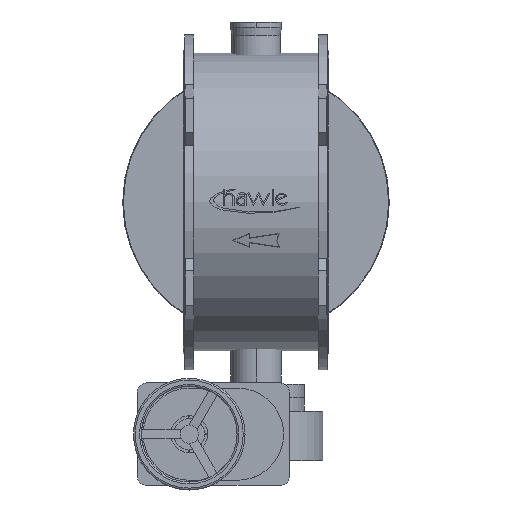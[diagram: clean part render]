
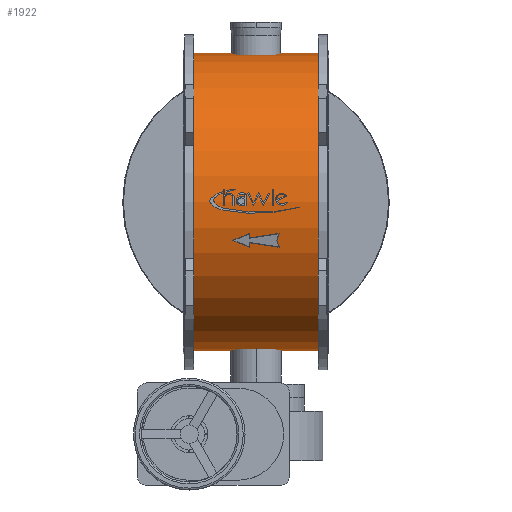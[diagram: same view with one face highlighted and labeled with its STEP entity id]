
A CAD part, top view. The second image highlights one B-rep face of the part: STEP entity #1922.
In plain terms, the highlighted cylindrical face has radius 646 mm (diameter 1292 mm), a partial arc.
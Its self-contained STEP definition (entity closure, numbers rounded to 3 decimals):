
#1922=ADVANCED_FACE('',(#3701),#3702,.T.);
#3701=FACE_OUTER_BOUND('',#5714,.T.);
#3702=CYLINDRICAL_SURFACE('',#5715,646.0);
#5714=EDGE_LOOP('',(#9601,#9602,#9603,#9604));
#5715=AXIS2_PLACEMENT_3D('',#9605,#9606,#9607);
#9601=ORIENTED_EDGE('',*,*,#12186,.T.);
#9602=ORIENTED_EDGE('',*,*,#11826,.T.);
#9603=ORIENTED_EDGE('',*,*,#12187,.T.);
#9604=ORIENTED_EDGE('',*,*,#11531,.T.);
#9605=CARTESIAN_POINT('',(-585.0,0.,0.0));
#9606=DIRECTION('',(1.0,0.,0.0));
#9607=DIRECTION('',(0.,-1.0,0.0));
#11531=EDGE_CURVE('',#13890,#13889,#13892,.T.);
#11826=EDGE_CURVE('',#14308,#14309,#14310,.T.);
#12186=EDGE_CURVE('',#13889,#14308,#14748,.T.);
#12187=EDGE_CURVE('',#14309,#13890,#14749,.T.);
#13889=VERTEX_POINT('',#16848);
#13890=VERTEX_POINT('',#16849);
#13892=CIRCLE('',#16851,646.0);
#14308=VERTEX_POINT('',#17371);
#14309=VERTEX_POINT('',#17372);
#14310=CIRCLE('',#17373,646.0);
#14748=LINE('',#17923,#17924);
#14749=LINE('',#17925,#17926);
#16848=CARTESIAN_POINT('',(-585.0,-646.0,0.0));
#16849=CARTESIAN_POINT('',(-585.0,646.0,0.));
#16851=AXIS2_PLACEMENT_3D('',#19496,#19497,#19498);
#17371=CARTESIAN_POINT('',(-45.0,-646.0,0.0));
#17372=CARTESIAN_POINT('',(-45.0,646.0,0.));
#17373=AXIS2_PLACEMENT_3D('',#19930,#19931,#19932);
#17923=CARTESIAN_POINT('',(-585.0,-646.0,0.));
#17924=VECTOR('',#20324,1.0);
#17925=CARTESIAN_POINT('',(-585.0,646.0,0.));
#17926=VECTOR('',#20325,1.0);
#19496=CARTESIAN_POINT('',(-585.0,0.,0.0));
#19497=DIRECTION('',(1.0,0.,0.0));
#19498=DIRECTION('',(0.,-1.0,0.0));
#19930=CARTESIAN_POINT('',(-45.0,0.,0.0));
#19931=DIRECTION('',(-1.0,0.,0.0));
#19932=DIRECTION('',(0.,-1.0,0.0));
#20324=DIRECTION('',(1.0,0.,0.0));
#20325=DIRECTION('',(-1.0,0.,-0.0));
